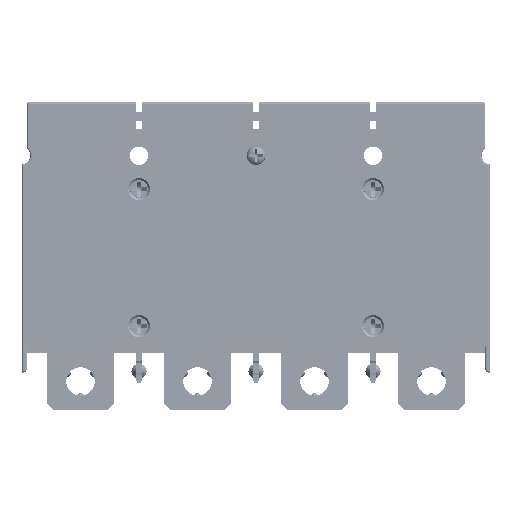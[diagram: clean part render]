
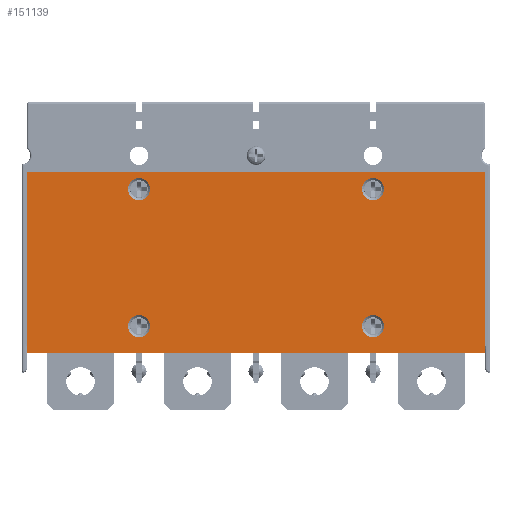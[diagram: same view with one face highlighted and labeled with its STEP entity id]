
A CAD part, front view. The second image highlights one B-rep face of the part: STEP entity #151139.
In plain terms, the highlighted planar face has unit normal (0, -1, 0) as drawn and (0, 1, 0) by its records, which use the part's own axes.
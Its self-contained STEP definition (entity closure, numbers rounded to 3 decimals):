
#150672=CARTESIAN_POINT('',(-35.,2.,-46.));
#150673=DIRECTION('',(0.,-1.,0.));
#150674=DIRECTION('',(-1.,0.,0.));
#150675=AXIS2_PLACEMENT_3D('',#150672,#150673,#150674);
#150688=DIRECTION('',(0.,0.,1.));
#150689=VECTOR('',#150688,54.);
#150690=CARTESIAN_POINT('',(-68.5,2.,-54.));
#150691=LINE('',#150690,#150689);
#150695=DIRECTION('',(-1.,0.,0.));
#150696=VECTOR('',#150695,137.);
#150697=CARTESIAN_POINT('',(68.5,2.,-54.));
#150698=LINE('',#150697,#150696);
#150702=DIRECTION('',(0.,0.,-1.));
#150703=VECTOR('',#150702,54.);
#150704=CARTESIAN_POINT('',(68.5,2.,0.));
#150705=LINE('',#150704,#150703);
#150709=DIRECTION('',(1.,0.,0.));
#150710=VECTOR('',#150709,137.);
#150711=CARTESIAN_POINT('',(-68.5,2.,0.));
#150712=LINE('',#150711,#150710);
#150716=CARTESIAN_POINT('',(-35.,2.,-46.));
#150717=DIRECTION('',(0.,-1.,0.));
#150718=DIRECTION('',(1.,0.,0.));
#150719=AXIS2_PLACEMENT_3D('',#150716,#150717,#150718);
#150746=CARTESIAN_POINT('',(35.,2.,-46.));
#150747=DIRECTION('',(0.,-1.,0.));
#150748=DIRECTION('',(1.,0.,0.));
#150749=AXIS2_PLACEMENT_3D('',#150746,#150747,#150748);
#150776=CARTESIAN_POINT('',(35.,2.,-46.));
#150777=DIRECTION('',(0.,-1.,0.));
#150778=DIRECTION('',(-1.,0.,0.));
#150779=AXIS2_PLACEMENT_3D('',#150776,#150777,#150778);
#150806=CARTESIAN_POINT('',(-35.,2.,-5.));
#150807=DIRECTION('',(0.,-1.,0.));
#150808=DIRECTION('',(1.,0.,0.));
#150809=AXIS2_PLACEMENT_3D('',#150806,#150807,#150808);
#150836=CARTESIAN_POINT('',(-35.,2.,-5.));
#150837=DIRECTION('',(0.,-1.,0.));
#150838=DIRECTION('',(-1.,0.,0.));
#150839=AXIS2_PLACEMENT_3D('',#150836,#150837,#150838);
#150866=CARTESIAN_POINT('',(35.,2.,-5.));
#150867=DIRECTION('',(0.,-1.,0.));
#150868=DIRECTION('',(1.,0.,0.));
#150869=AXIS2_PLACEMENT_3D('',#150866,#150867,#150868);
#150896=CARTESIAN_POINT('',(35.,2.,-5.));
#150897=DIRECTION('',(0.,-1.,0.));
#150898=DIRECTION('',(-1.,0.,0.));
#150899=AXIS2_PLACEMENT_3D('',#150896,#150897,#150898);
#150962=CARTESIAN_POINT('',(-68.5,2.,-54.));
#150963=CARTESIAN_POINT('',(-68.5,2.,0.));
#150964=VERTEX_POINT('',#150962);
#150965=VERTEX_POINT('',#150963);
#150966=CARTESIAN_POINT('',(68.5,2.,0.));
#150967=VERTEX_POINT('',#150966);
#150968=CARTESIAN_POINT('',(68.5,2.,-54.));
#150969=VERTEX_POINT('',#150968);
#150986=CARTESIAN_POINT('',(-38.3,2.,-46.));
#150987=CARTESIAN_POINT('',(-31.7,2.,-46.));
#150988=VERTEX_POINT('',#150986);
#150989=VERTEX_POINT('',#150987);
#150994=CARTESIAN_POINT('',(-38.3,2.,-5.));
#150995=CARTESIAN_POINT('',(-31.7,2.,-5.));
#150996=VERTEX_POINT('',#150994);
#150997=VERTEX_POINT('',#150995);
#151002=CARTESIAN_POINT('',(31.7,2.,-46.));
#151003=CARTESIAN_POINT('',(38.3,2.,-46.));
#151004=VERTEX_POINT('',#151002);
#151005=VERTEX_POINT('',#151003);
#151010=CARTESIAN_POINT('',(31.7,2.,-5.));
#151011=CARTESIAN_POINT('',(38.3,2.,-5.));
#151012=VERTEX_POINT('',#151010);
#151013=VERTEX_POINT('',#151011);
#151101=CARTESIAN_POINT('',(0.,2.,0.));
#151102=DIRECTION('',(0.,1.,0.));
#151103=DIRECTION('',(1.,0.,0.));
#151104=AXIS2_PLACEMENT_3D('',#151101,#151102,#151103);
#151105=PLANE('',#151104);
#151107=ORIENTED_EDGE('',*,*,#151106,.F.);
#151109=ORIENTED_EDGE('',*,*,#151108,.F.);
#151111=ORIENTED_EDGE('',*,*,#151110,.F.);
#151113=ORIENTED_EDGE('',*,*,#151112,.F.);
#151114=EDGE_LOOP('',(#151107,#151109,#151111,#151113));
#151115=FACE_OUTER_BOUND('',#151114,.F.);
#151117=ORIENTED_EDGE('',*,*,#151116,.F.);
#151119=ORIENTED_EDGE('',*,*,#151118,.F.);
#151120=EDGE_LOOP('',(#151117,#151119));
#151121=FACE_BOUND('',#151120,.F.);
#151123=ORIENTED_EDGE('',*,*,#151122,.F.);
#151125=ORIENTED_EDGE('',*,*,#151124,.F.);
#151126=EDGE_LOOP('',(#151123,#151125));
#151127=FACE_BOUND('',#151126,.F.);
#151129=ORIENTED_EDGE('',*,*,#151128,.F.);
#151131=ORIENTED_EDGE('',*,*,#151130,.F.);
#151132=EDGE_LOOP('',(#151129,#151131));
#151133=FACE_BOUND('',#151132,.F.);
#151135=ORIENTED_EDGE('',*,*,#151134,.F.);
#151136=ORIENTED_EDGE('',*,*,#151091,.F.);
#151137=EDGE_LOOP('',(#151135,#151136));
#151138=FACE_BOUND('',#151137,.F.);
#151139=ADVANCED_FACE('',(#151115,#151121,#151127,#151133,#151138),#151105,.T.);
#150676=CIRCLE('',#150675,3.3);
#150720=CIRCLE('',#150719,3.3);
#150750=CIRCLE('',#150749,3.3);
#150780=CIRCLE('',#150779,3.3);
#150810=CIRCLE('',#150809,3.3);
#150840=CIRCLE('',#150839,3.3);
#150870=CIRCLE('',#150869,3.3);
#150900=CIRCLE('',#150899,3.3);
#151091=EDGE_CURVE('',#150988,#150989,#150676,.T.);
#151106=EDGE_CURVE('',#150964,#150965,#150691,.T.);
#151108=EDGE_CURVE('',#150969,#150964,#150698,.T.);
#151110=EDGE_CURVE('',#150967,#150969,#150705,.T.);
#151112=EDGE_CURVE('',#150965,#150967,#150712,.T.);
#151116=EDGE_CURVE('',#151005,#151004,#150750,.T.);
#151118=EDGE_CURVE('',#151004,#151005,#150780,.T.);
#151122=EDGE_CURVE('',#150997,#150996,#150810,.T.);
#151124=EDGE_CURVE('',#150996,#150997,#150840,.T.);
#151128=EDGE_CURVE('',#151013,#151012,#150870,.T.);
#151130=EDGE_CURVE('',#151012,#151013,#150900,.T.);
#151134=EDGE_CURVE('',#150989,#150988,#150720,.T.);
